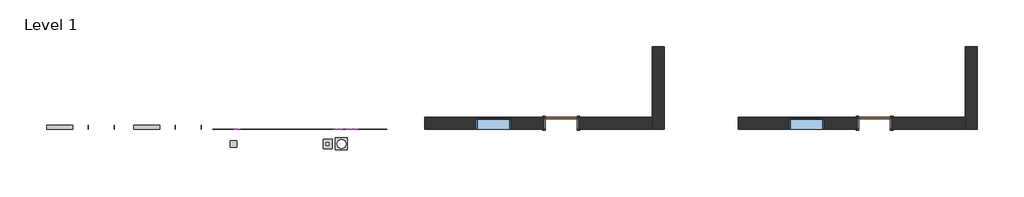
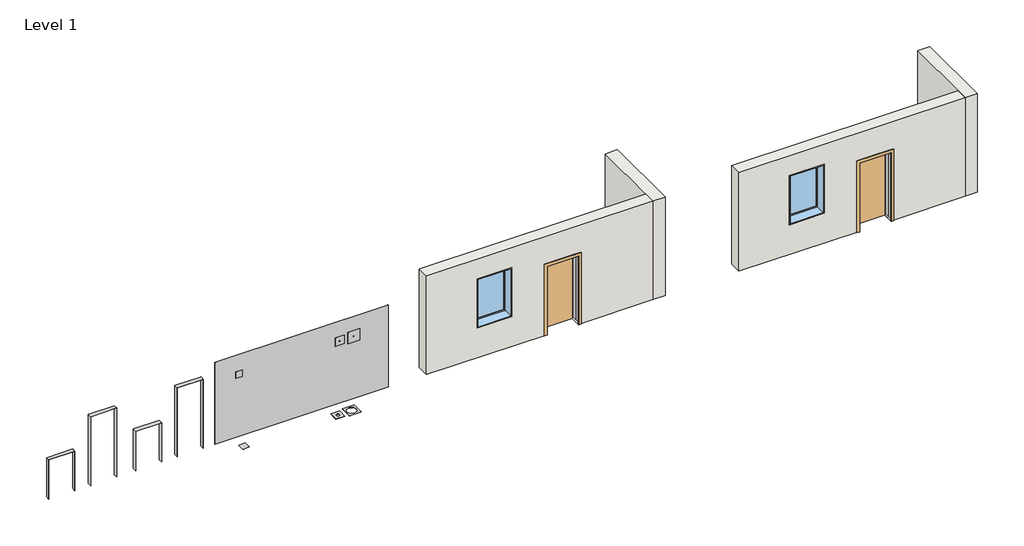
# One storey: 15 proxies, 4 walls, 2 doors, 2 windows.
"""IFC4 building model written with IfcOpenShell, lengths in millimetres."""

from ifc_helpers import new_model, si_unit, frame, origin, place, context, project, spatial, polyline, outline, extrude, faceted_brep, transform, mapped, element, save
from components import door_lining_9c8101e2, door_lining_f05a702a, standard_6c1edd98, type_195_70466056, type_260_10d892fd, type_260_1be04fd2, type_345_9c5c3a70, type_345_dcfd89e2, window_lining_c4cb1808, window_lining_efe981d6, m_single_flush_0910_x_2100mm_887f37dd, m_fixed_1500_x_1000_mm_dfda1408

model = new_model("IFC4")

# Units and contexts
model_context = context("Model", 3, world=origin())
ifc_project = project(units=[si_unit("LENGTHUNIT", "METRE", prefix="MILLI")], contexts=[model_context])

# Site, building, storey
site = spatial("IfcSite", under=ifc_project)
building = spatial("IfcBuilding", under=site)
storey = spatial("IfcBuildingStorey", under=building, Name="Level 1", Elevation=0.0)

# Proxies
placement = place(None, origin())
door_lining_shape = door_lining_9c8101e2(model_context)
element("IfcBuildingElementProxy", 1, Name="Dafa_ExFoil_Lining_Foil 2 x double adhesive : Door Lining", ObjectType="Dafa_ExFoil_Lining_Foil 2 x double adhesive : Door Lining", at=placement, inside=storey, context=model_context, shape_type="MappedRepresentation", body=[
    mapped(door_lining_shape, transform((-8518.8325996, 14018.9384219, 0.0), x_axis=(1.0, 0.0, 0.0), y_axis=(0.0, 1.0, 0.0), z_axis=(0.0, 0.0, 1.0))),
])
door_lining_2_shape = door_lining_f05a702a(model_context)
element("IfcBuildingElementProxy", 2, Name="Dafa_ExFoil_Lining_Foil 2 x double adhesive-WallBased : Door Lining", ObjectType="Dafa_ExFoil_Lining_Foil 2 x double adhesive-WallBased : Door Lining", at=placement, inside=storey, context=model_context, shape_type="MappedRepresentation", body=[
    mapped(door_lining_2_shape, transform((2323.6674004, 14193.9384219, 0.7080153), x_axis=(-1.0, 0.0, 0.0), y_axis=(0.0, -1.0, 0.0), z_axis=(0.0, 0.0, 1.0))),
])
element("IfcBuildingElementProxy", 3, Name="Dafa_ExFoil_Lining_Foil double adhesive and butyl rubber : Door Lining", ObjectType="Dafa_ExFoil_Lining_Foil double adhesive and butyl rubber : Door Lining", at=placement, inside=storey, context=model_context, shape_type="MappedRepresentation", body=[
    mapped(door_lining_shape, transform((-11018.8325996, 14018.9384219, 0.0), x_axis=(1.0, 0.0, 0.0), y_axis=(0.0, 1.0, 0.0), z_axis=(0.0, 0.0, 1.0))),
])
element("IfcBuildingElementProxy", 4, Name="Dafa_ExFoil_Lining_Foil double adhesive and butyl rubber-WallBased : Door Lining", ObjectType="Dafa_ExFoil_Lining_Foil double adhesive and butyl rubber-WallBased : Door Lining", at=placement, inside=storey, context=model_context, shape_type="MappedRepresentation", body=[
    mapped(door_lining_2_shape, transform((11323.6674004, 14193.9384219, 0.7080153), x_axis=(-1.0, 0.0, 0.0), y_axis=(0.0, -1.0, 0.0), z_axis=(0.0, 0.0, 1.0))),
])
standard_shape = standard_6c1edd98(model_context)
element("IfcBuildingElementProxy", 5, Name="Dafa_ExFoil : Standard", ObjectType="Dafa_ExFoil : Standard", at=placement, inside=storey, context=model_context, shape_type="MappedRepresentation", body=[
    mapped(standard_shape, transform((-5318.8325996, 14018.9384219, 0.0), x_axis=(1.0, 0.0, 0.0), y_axis=(0.0, 1.0, 0.0), z_axis=(0.0, 0.0, 1.0))),
])
type_195_shape = type_195_70466056(model_context)
element("IfcBuildingElementProxy", 6, Name="Dafa_Hi-tack_Cable_Collar : Type 195", ObjectType="Dafa_Hi-tack_Cable_Collar : Type 195", at=placement, inside=storey, context=model_context, shape_type="MappedRepresentation", body=[
    mapped(type_195_shape, transform((-7218.8325996, 13593.9384219, 0.0), x_axis=(1.0, 0.0, 0.0), y_axis=(0.0, 1.0, 0.0), z_axis=(0.0, 0.0, 1.0))),
])
element("IfcBuildingElementProxy", 7, Name="Dafa_Hi-tack_Cable_Collar_FaceBased : Type 195", ObjectType="Dafa_Hi-tack_Cable_Collar_FaceBased : Type 195", at=placement, inside=storey, context=model_context, shape_type="MappedRepresentation", body=[
    mapped(type_195_shape, transform((-7118.8325996, 14018.4384219, 1900.0), x_axis=(0.0, 0.0, -1.0), y_axis=(1.0, 0.0, 0.0), z_axis=(0.0, -1.0, 0.0))),
])
type_260_shape = type_260_10d892fd(model_context)
element("IfcBuildingElementProxy", 8, Name="Dafa_Hi-tack_Pipe_Collar : Type 260", ObjectType="Dafa_Hi-tack_Pipe_Collar : Type 260", at=placement, inside=storey, context=model_context, shape_type="MappedRepresentation", body=[
    mapped(type_260_shape, transform((-4518.8325996, 13593.9384219, 0.0), x_axis=(1.0, 0.0, 0.0), y_axis=(0.0, 1.0, 0.0), z_axis=(0.0, 0.0, 1.0))),
])
type_260_2_shape = type_260_1be04fd2(model_context)
element("IfcBuildingElementProxy", 9, Name="Dafa_Hi-tack_Pipe_Collar_FaceBased : Type 260", ObjectType="Dafa_Hi-tack_Pipe_Collar_FaceBased : Type 260", at=placement, inside=storey, context=model_context, shape_type="MappedRepresentation", body=[
    mapped(type_260_2_shape, transform((-4218.8325996, 14018.4384219, 1900.0), x_axis=(0.0, 0.0, -1.0), y_axis=(1.0, 0.0, 0.0), z_axis=(0.0, -1.0, 0.0))),
])
type_345_shape = type_345_9c5c3a70(model_context)
element("IfcBuildingElementProxy", 10, Name="Dafa_Hi-tack_Pipe_Collar : Type 345", ObjectType="Dafa_Hi-tack_Pipe_Collar : Type 345", at=placement, inside=storey, context=model_context, shape_type="MappedRepresentation", body=[
    mapped(type_345_shape, transform((-4118.8325996, 13593.9384219, 0.0), x_axis=(1.0, 0.0, 0.0), y_axis=(0.0, 1.0, 0.0), z_axis=(0.0, 0.0, 1.0))),
])
type_345_2_shape = type_345_dcfd89e2(model_context)
element("IfcBuildingElementProxy", 11, Name="Dafa_Hi-tack_Pipe_Collar_FaceBased : Type 345", ObjectType="Dafa_Hi-tack_Pipe_Collar_FaceBased : Type 345", at=placement, inside=storey, context=model_context, shape_type="MappedRepresentation", body=[
    mapped(type_345_2_shape, transform((-3818.8325996, 14018.4384219, 1900.0), x_axis=(0.0, 0.0, -1.0), y_axis=(1.0, 0.0, 0.0), z_axis=(0.0, -1.0, 0.0))),
])
window_lining_shape = window_lining_c4cb1808(model_context)
element("IfcBuildingElementProxy", 12, Name="Dafa_ExFoil_Lining_Foil 2 x double adhesive : Window Lining", ObjectType="Dafa_ExFoil_Lining_Foil 2 x double adhesive : Window Lining", at=placement, inside=storey, context=model_context, shape_type="MappedRepresentation", body=[
    mapped(window_lining_shape, transform((-9718.8325996, 14018.9384219, 0.0), x_axis=(1.0, 0.0, 0.0), y_axis=(0.0, 1.0, 0.0), z_axis=(0.0, 0.0, 1.0))),
])
window_lining_2_shape = window_lining_efe981d6(model_context)
element("IfcBuildingElementProxy", 13, Name="Dafa_ExFoil_Lining_Foil 2 x double adhesive-WallBased : Window Lining", ObjectType="Dafa_ExFoil_Lining_Foil 2 x double adhesive-WallBased : Window Lining", at=placement, inside=storey, context=model_context, shape_type="MappedRepresentation", body=[
    mapped(window_lining_2_shape, transform((363.6674004, 14193.9384219, 900.0), x_axis=(-1.0, 0.0, 0.0), y_axis=(0.0, -1.0, 0.0), z_axis=(0.0, 0.0, 1.0))),
])
element("IfcBuildingElementProxy", 14, Name="Dafa_ExFoil_Lining_Foil double adhesive and butyl rubber : Window Lining", ObjectType="Dafa_ExFoil_Lining_Foil double adhesive and butyl rubber : Window Lining", at=placement, inside=storey, context=model_context, shape_type="MappedRepresentation", body=[
    mapped(window_lining_shape, transform((-12218.8325996, 14018.9384219, 0.0), x_axis=(1.0, 0.0, 0.0), y_axis=(0.0, 1.0, 0.0), z_axis=(0.0, 0.0, 1.0))),
])
element("IfcBuildingElementProxy", 15, Name="Dafa_ExFoil_Lining_Foil double adhesive and butyl rubber-WallBased : Window Lining", ObjectType="Dafa_ExFoil_Lining_Foil double adhesive and butyl rubber-WallBased : Window Lining", at=placement, inside=storey, context=model_context, shape_type="MappedRepresentation", body=[
    mapped(window_lining_2_shape, transform((9363.6674004, 14193.9384219, 900.0), x_axis=(-1.0, 0.0, 0.0), y_axis=(0.0, -1.0, 0.0), z_axis=(0.0, 0.0, 1.0))),
])

# Doors
m_single_flush_0910_x_2100mm_shape = m_single_flush_0910_x_2100mm_887f37dd(model_context)
element("IfcDoor", 16, ObjectType="M_Single-Flush : 0910 x 2100mm", at=placement, inside=storey, context=model_context, shape_type="MappedRepresentation", body=[
    mapped(m_single_flush_0910_x_2100mm_shape, transform((2198.6674004, 14193.9384219, 0.0), x_axis=(1.0, 0.0, 0.0), y_axis=(0.0, 1.0, 0.0), z_axis=(0.0, 0.0, 1.0))),
])
element("IfcDoor", 17, ObjectType="M_Single-Flush : 0910 x 2100mm", at=placement, inside=storey, context=model_context, shape_type="MappedRepresentation", body=[
    mapped(m_single_flush_0910_x_2100mm_shape, transform((11198.6674004, 14193.9384219, 0.0), x_axis=(1.0, 0.0, 0.0), y_axis=(0.0, 1.0, 0.0), z_axis=(0.0, 0.0, 1.0))),
])

# Walls
element("IfcWall", 18, ObjectType="Exterior - Brick on Mtl. Stud", at=placement, inside=storey, context=model_context, shape_type="SweptSolid", body=[
    extrude(outline(polyline([(3000.0, 4806.1674004), (3000.0, -1718.8325996), (0.0, -1718.8325996), (0.0, 1743.6674004), (0.7080153, 1743.6674004), (0.7080153, 1698.6674004), (2100.7080153, 1698.6674004), (2100.7080153, 2698.6674004), (0.7080153, 2698.6674004), (0.7080153, 2653.6674004), (0.0, 2653.6674004), (0.0, 4806.1674004), (3000.0, 4806.1674004)]), holes=[polyline([(2400.0, 743.6674004), (900.0, 743.6674004), (900.0, -261.3325996), (2400.0, -261.3325996), (2400.0, 743.6674004)])]), frame((0.0, 14018.9384219, 0.0), z_axis=(0.0, 1.0, 0.0), x_axis=(0.0, 0.0, 1.0)), (0.0, 0.0, 1.0), 350.0),
])
element("IfcWall", 19, ObjectType="Exterior - Brick on Mtl. Stud", at=placement, inside=storey, context=model_context, shape_type="Brep", body=[
    faceted_brep([(5156.1674004, 14018.9384219, 0.0), (5156.1674004, 16393.9384219, 0.0), (5156.1674004, 16393.9384219, 3000.0), (5156.1674004, 14018.9384219, 3000.0), (4806.1674004, 14018.9384219, 0.0), (4806.1674004, 14018.9384219, 3000.0), (4806.1674004, 14368.9384219, 3000.0), (4806.1674004, 16393.9384219, 3000.0), (4806.1674004, 16393.9384219, 0.0), (4806.1674004, 14368.9384219, 0.0)], [[[0, 1, 2, 3]], [[4, 5, 6, 7, 8, 9]], [[1, 0, 4, 9, 8]], [[2, 1, 8, 7]], [[3, 2, 7, 6, 5]], [[0, 3, 5, 4]]]),
])
element("IfcWall", 20, ObjectType="Exterior - Brick on Mtl. Stud", at=placement, inside=storey, context=model_context, shape_type="SweptSolid", body=[
    extrude(outline(polyline([(3000.0, 13806.1674004), (3000.0, 7281.1674004), (0.0, 7281.1674004), (0.0, 10743.6674004), (0.7080153, 10743.6674004), (0.7080153, 10698.6674004), (2100.7080153, 10698.6674004), (2100.7080153, 11698.6674004), (0.7080153, 11698.6674004), (0.7080153, 11653.6674004), (0.0, 11653.6674004), (0.0, 13806.1674004), (3000.0, 13806.1674004)]), holes=[polyline([(2400.0, 9743.6674004), (900.0, 9743.6674004), (900.0, 8738.6674004), (2400.0, 8738.6674004), (2400.0, 9743.6674004)])]), frame((0.0, 14018.9384219, 0.0), z_axis=(0.0, 1.0, 0.0), x_axis=(0.0, 0.0, 1.0)), (0.0, 0.0, 1.0), 350.0),
])
element("IfcWall", 21, ObjectType="Exterior - Brick on Mtl. Stud", at=placement, inside=storey, context=model_context, shape_type="Brep", body=[
    faceted_brep([(14156.1674004, 14018.9384219, 0.0), (14156.1674004, 16393.9384219, 0.0), (14156.1674004, 16393.9384219, 3000.0), (14156.1674004, 14018.9384219, 3000.0), (13806.1674004, 14018.9384219, 0.0), (13806.1674004, 14018.9384219, 3000.0), (13806.1674004, 14368.9384219, 3000.0), (13806.1674004, 16393.9384219, 3000.0), (13806.1674004, 16393.9384219, 0.0), (13806.1674004, 14368.9384219, 0.0)], [[[0, 1, 2, 3]], [[4, 5, 6, 7, 8, 9]], [[1, 0, 4, 9, 8]], [[2, 1, 8, 7]], [[3, 2, 7, 6, 5]], [[0, 3, 5, 4]]]),
])

# Windows
m_fixed_1500_x_1000_mm_shape = m_fixed_1500_x_1000_mm_dfda1408(model_context)
element("IfcWindow", 22, ObjectType="M_Fixed : 1500 x 1000 mm", at=placement, inside=storey, context=model_context, shape_type="MappedRepresentation", body=[
    mapped(m_fixed_1500_x_1000_mm_shape, transform((243.6674004, 14180.9384219, 100.0), x_axis=(1.0, 0.0, 0.0), y_axis=(0.0, 1.0, 0.0), z_axis=(0.0, 0.0, 1.0))),
])
element("IfcWindow", 23, ObjectType="M_Fixed : 1500 x 1000 mm", at=placement, inside=storey, context=model_context, shape_type="MappedRepresentation", body=[
    mapped(m_fixed_1500_x_1000_mm_shape, transform((9243.6674004, 14180.9384219, 100.0), x_axis=(1.0, 0.0, 0.0), y_axis=(0.0, 1.0, 0.0), z_axis=(0.0, 0.0, 1.0))),
])

save(model, "model.ifc")
